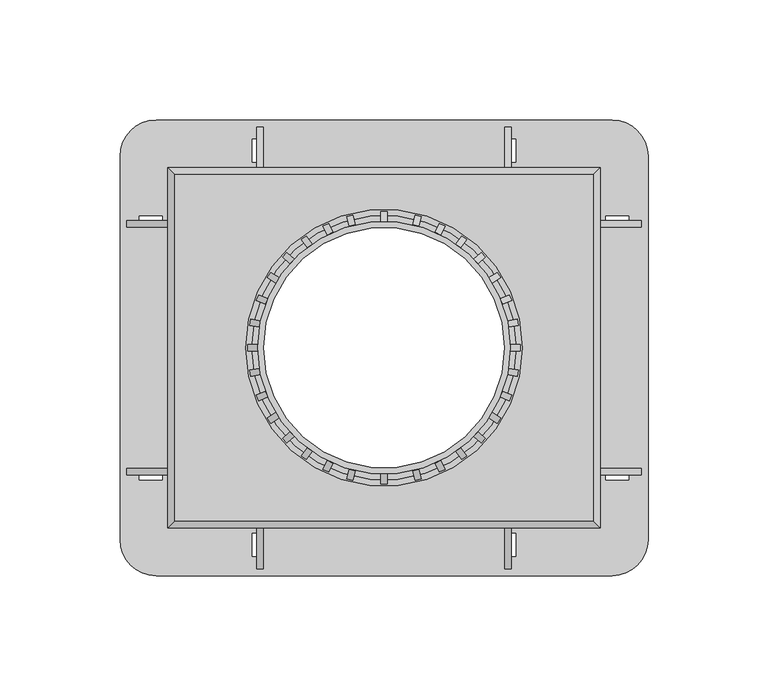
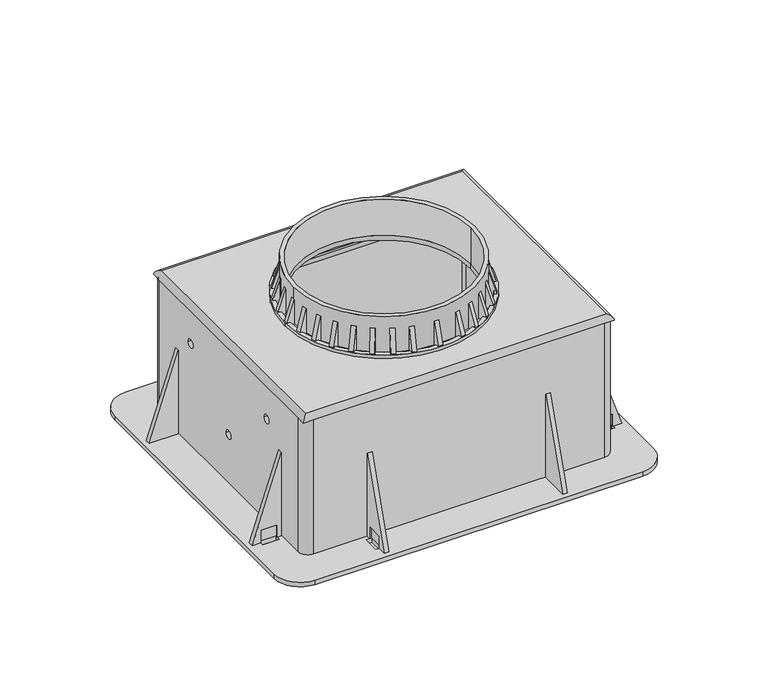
"""IFC4 building model written with IfcOpenShell, lengths in millimetres: proxy geometry, Cast In Collar Assembley : Cast In Collar Assembley."""

from ifc_helpers import new_model, si_unit, point, frame, frame_2d, origin, origin_with_axes, origin_2d, place, context, project, spatial, polyline, circle_curve, ellipse_curve, trimmed, segment, composite_curve, outline, extrude, faceted_brep, source, transform, mapped, element, save
from ifc_brep_helpers import plane_surface, cylinder_surface, revolved_surface, advanced_brep


def generic_models_a8caa1fc(model_context):
    return source(origin(), model_context, "Body", "SolidModel", [
        extrude(outline(polyline([(0.0, 0.0), (2.5, 0.0), (2.5, -3.0), (4.118, -3.0), (0.0, -16.0), (0.0, 0.0)])), frame((14.5015305, 50.6378849, 86.9867495), z_axis=(-0.9700844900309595, 0.24276754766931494, 0.0), x_axis=(0.24276754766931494, 0.9700844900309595, 0.0)), (0.0, 0.0, 1.0), 2.6),
        extrude(outline(polyline([(0.0, 0.0), (2.5, 0.0), (2.5, -3.0), (4.118, -3.0), (0.0, -16.0), (0.0, 0.0)])), frame((23.7011786, 47.0353899, 86.9867495), z_axis=(-0.907044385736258, 0.42103501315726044, 0.0), x_axis=(0.42103501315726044, 0.907044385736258, 0.0)), (0.0, 0.0, 1.0), 2.6),
        extrude(outline(polyline([(16.0, 0.0), (16.0, -2.5), (13.0, -2.5), (13.0, -4.118), (0.0, 0.0), (16.0, 0.0)])), frame((32.0453105, 41.7746193, 102.9867495), z_axis=(-0.8115744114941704, 0.5842490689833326, 0.0), x_axis=(0.0, 0.0, -1.0)), (0.0, 0.0, 1.0), 2.6),
        extrude(outline(polyline([(16.0, 0.0), (16.0, -2.4999999), (13.0, -2.4999999), (13.0, -4.118), (0.0, 0.0), (16.0, 0.0)])), frame((39.23416, 35.0124885, 102.9867495), z_axis=(-0.6870879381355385, 0.7265742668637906, 0.0), x_axis=(0.0, 0.0, -1.0)), (0.0, 0.0, 1.0), 2.6),
        extrude(outline(polyline([(0.0, 0.0), (2.5, 0.0), (2.5, -3.0), (4.118, -3.0), (0.0, -16.0), (0.0, 0.0)])), frame((45.119142, 27.0545676, 86.9867495), z_axis=(-0.5380357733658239, 0.8429220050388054, 0.0), x_axis=(0.8429220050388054, 0.5380357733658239, 0.0)), (0.0, 0.0, 1.0), 2.6),
        extrude(outline(polyline([(0.0, 0.0), (2.5, 0.0), (2.5, -3.0), (4.118, -3.0), (0.0, -16.0), (0.0, 0.0)])), frame((49.4219952, 18.1419172, 86.9867495), z_axis=(-0.36974703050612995, 0.9291324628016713, 0.0), x_axis=(0.9291324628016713, 0.36974703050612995, 0.0)), (0.0, 0.0, 1.0), 2.6),
        extrude(outline(polyline([(16.0, 0.0), (16.0, -2.5), (13.0, -2.5), (13.0, -4.118), (0.0, 0.0), (16.0, 0.0)])), frame((51.9475054, 8.572, 102.9867495), z_axis=(-0.1882385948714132, 0.9821233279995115, 0.0), x_axis=(0.0, 0.0, -1.0)), (0.0, 0.0, 1.0), 2.6),
        extrude(outline(polyline([(-16.0, 0.0), (0.0, 0.0), (-13.0, -4.118), (-13.0, -2.5), (-16.0, -2.5), (-16.0, 0.0)])), frame((-14.5015305, 50.6378849, 102.9867495), z_axis=(0.9700844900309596, 0.2427675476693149, 0.0), x_axis=(0.0, 0.0, 1.0)), (0.0, 0.0, 1.0), 2.6),
        extrude(outline(polyline([(-16.0, 0.0), (0.0, 0.0), (-13.0, -4.118), (-13.0, -2.5), (-16.0, -2.5), (-16.0, 0.0)])), frame((-23.7011786, 47.0353899, 102.9867495), z_axis=(0.907044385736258, 0.42103501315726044, 0.0), x_axis=(0.0, 0.0, 1.0)), (0.0, 0.0, 1.0), 2.6),
        extrude(outline(polyline([(0.0, 0.0), (0.0, -16.0), (-4.118, -3.0), (-2.5, -3.0), (-2.5, 0.0), (0.0, 0.0)])), frame((-32.0453105, 41.7746193, 86.9867495), z_axis=(0.8115744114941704, 0.5842490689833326, 0.0), x_axis=(0.5842490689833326, -0.8115744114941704, 0.0)), (0.0, 0.0, 1.0), 2.6),
        extrude(outline(polyline([(0.0, 0.0), (0.0, -16.0), (-4.118, -3.0), (-2.4999999, -3.0), (-2.4999999, 0.0), (0.0, 0.0)])), frame((-39.23416, 35.0124885, 86.9867495), z_axis=(0.6870879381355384, 0.7265742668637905, 0.0), x_axis=(0.7265742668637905, -0.6870879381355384, 0.0)), (0.0, 0.0, 1.0), 2.6),
        extrude(outline(polyline([(-16.0, 0.0), (0.0, 0.0), (-13.0, -4.1180001), (-13.0, -2.5000001), (-16.0, -2.5000001), (-16.0, 0.0)])), frame((-45.1191419, 27.0545676, 102.9867495), z_axis=(0.5380357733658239, 0.8429220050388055, 0.0), x_axis=(0.0, 0.0, 1.0)), (0.0, 0.0, 1.0), 2.6),
        extrude(outline(polyline([(-16.0, 0.0), (0.0, 0.0), (-13.0, -4.118), (-13.0, -2.5), (-16.0, -2.5), (-16.0, 0.0)])), frame((-49.4219952, 18.1419172, 102.9867495), z_axis=(0.36974703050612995, 0.9291324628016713, 0.0), x_axis=(0.0, 0.0, 1.0)), (0.0, 0.0, 1.0), 2.6),
        extrude(outline(polyline([(0.0, 0.0), (0.0, -16.0), (-4.118, -3.0), (-2.5, -3.0), (-2.5, 0.0), (0.0, 0.0)])), frame((-51.9475054, 8.572, 86.9867495), z_axis=(0.18823859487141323, 0.9821233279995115, 0.0), x_axis=(0.9821233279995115, -0.18823859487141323, 0.0)), (0.0, 0.0, 1.0), 2.6),
        extrude(outline(polyline([(16.0, 0.0), (16.0, -2.5), (13.0, -2.5), (13.0, -4.118), (0.0, 0.0), (16.0, 0.0)])), frame((11.9793108, -51.2690805, 102.9867495), z_axis=(0.9700844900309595, 0.2427675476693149, 0.0), x_axis=(0.0, 0.0, -1.0)), (0.0, 0.0, 1.0), 2.6),
        extrude(outline(polyline([(16.0, 0.0), (16.0, -2.5), (13.0, -2.5), (13.0, -4.118), (0.0, 0.0), (16.0, 0.0)])), frame((21.3428632, -48.1300809, 102.9867495), z_axis=(0.907044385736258, 0.42103501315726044, 0.0), x_axis=(0.0, 0.0, -1.0)), (0.0, 0.0, 1.0), 2.6),
        extrude(outline(polyline([(0.0, 0.0), (2.5, 0.0), (2.5, -3.0), (4.118, -3.0), (0.0, -16.0), (0.0, 0.0)])), frame((29.935217, -43.2936669, 86.9867495), z_axis=(0.8115744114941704, 0.5842490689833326, 0.0), x_axis=(0.5842490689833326, -0.8115744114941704, 0.0)), (0.0, 0.0, 1.0), 2.6),
        extrude(outline(polyline([(0.0, 0.0), (2.5000001, 0.0), (2.5000001, -3.0), (4.1180001, -3.0), (0.0, -16.0), (0.0, 0.0)])), frame((37.4477313, -36.9015815, 86.9867495), z_axis=(0.6870879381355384, 0.7265742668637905, 0.0), x_axis=(0.7265742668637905, -0.6870879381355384, 0.0)), (0.0, 0.0, 1.0), 2.6),
        extrude(outline(polyline([(16.0, 0.0), (16.0, -2.5000001), (13.0, -2.5000001), (13.0, -4.1180001), (0.0, 0.0), (16.0, 0.0)])), frame((43.7202489, -29.2461648, 102.9867495), z_axis=(0.5380357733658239, 0.8429220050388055, 0.0), x_axis=(0.0, 0.0, -1.0)), (0.0, 0.0, 1.0), 2.6),
        extrude(outline(polyline([(16.0, 0.0), (16.0, -2.5), (13.0, -2.5), (13.0, -4.118), (0.0, 0.0), (16.0, 0.0)])), frame((48.4606529, -20.5576616, 102.9867495), z_axis=(0.36974703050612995, 0.9291324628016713, 0.0), x_axis=(0.0, 0.0, -1.0)), (0.0, 0.0, 1.0), 2.6),
        extrude(outline(polyline([(0.0, 0.0), (2.5000001, 0.0), (2.5000001, -3.0), (4.118, -3.0), (0.0, -16.0), (0.0, 0.0)])), frame((51.458085, -11.1255207, 86.9867495), z_axis=(0.18823859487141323, 0.9821233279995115, 0.0), x_axis=(0.9821233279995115, -0.18823859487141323, 0.0)), (0.0, 0.0, 1.0), 2.6),
        extrude(outline(polyline([(0.0, 0.0), (0.0, -16.0), (-4.118, -3.0), (-2.5, -3.0), (-2.5, 0.0), (0.0, 0.0)])), frame((-11.9793108, -51.2690805, 86.9867495), z_axis=(-0.9700844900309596, 0.24276754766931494, 0.0), x_axis=(0.24276754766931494, 0.9700844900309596, 0.0)), (0.0, 0.0, 1.0), 2.6),
        extrude(outline(polyline([(0.0, 0.0), (0.0, -16.0), (-4.118, -3.0), (-2.5, -3.0), (-2.5, 0.0), (0.0, 0.0)])), frame((-21.3428632, -48.1300809, 86.9867495), z_axis=(-0.907044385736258, 0.42103501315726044, 0.0), x_axis=(0.42103501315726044, 0.907044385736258, 0.0)), (0.0, 0.0, 1.0), 2.6),
        extrude(outline(polyline([(-16.0, 0.0), (0.0, 0.0), (-13.0, -4.118), (-13.0, -2.5), (-16.0, -2.5), (-16.0, 0.0)])), frame((-29.935217, -43.2936669, 102.9867495), z_axis=(-0.8115744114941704, 0.5842490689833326, 0.0), x_axis=(0.0, 0.0, 1.0)), (0.0, 0.0, 1.0), 2.6),
        extrude(outline(polyline([(-16.0, 0.0), (0.0, 0.0), (-13.0, -4.1180001), (-13.0, -2.5000001), (-16.0, -2.5000001), (-16.0, 0.0)])), frame((-37.4477313, -36.9015815, 102.9867495), z_axis=(-0.6870879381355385, 0.7265742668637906, 0.0), x_axis=(0.0, 0.0, 1.0)), (0.0, 0.0, 1.0), 2.6),
        extrude(outline(polyline([(0.0, 0.0), (0.0, -16.0), (-4.1180001, -3.0), (-2.5000001, -3.0), (-2.5000001, 0.0), (0.0, 0.0)])), frame((-43.7202489, -29.2461648, 86.9867495), z_axis=(-0.5380357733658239, 0.8429220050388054, 0.0), x_axis=(0.8429220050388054, 0.5380357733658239, 0.0)), (0.0, 0.0, 1.0), 2.6),
        extrude(outline(polyline([(0.0, 0.0), (0.0, -16.0), (-4.118, -3.0), (-2.5, -3.0), (-2.5, 0.0), (0.0, 0.0)])), frame((-48.4606529, -20.5576616, 86.9867495), z_axis=(-0.36974703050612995, 0.9291324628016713, 0.0), x_axis=(0.9291324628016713, 0.36974703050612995, 0.0)), (0.0, 0.0, 1.0), 2.6),
        extrude(outline(polyline([(-16.0, 0.0), (0.0, 0.0), (-13.0, -4.118), (-13.0, -2.5000001), (-16.0, -2.5000001), (-16.0, 0.0)])), frame((-51.458085, -11.1255207, 102.9867495), z_axis=(-0.18823859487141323, 0.9821233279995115, 0.0), x_axis=(0.0, 0.0, 1.0)), (0.0, 0.0, 1.0), 2.6),
        extrude(outline(polyline([(-52.65, 86.9867495), (-55.15, 86.9867495), (-55.15, 89.9867495), (-56.768, 89.9867495), (-52.65, 102.9867495), (-52.65, 86.9867495)])), frame((-1.3, 0.0, 0.0), z_axis=(1.0, 0.0, 0.0), x_axis=(0.0, 1.0, 0.0)), (0.0, 0.0, 1.0), 2.6),
        extrude(outline(polyline([(52.65, 86.9867495), (52.65, 102.9867495), (56.768, 89.9867495), (55.15, 89.9867495), (55.15, 86.9867495), (52.65, 86.9867495)])), frame((-1.3, 0.0, 0.0), z_axis=(1.0, 0.0, 0.0), x_axis=(0.0, 1.0, 0.0)), (0.0, 0.0, 1.0), 2.6),
        extrude(outline(polyline([(86.9867495, -52.65), (102.9867495, -52.65), (89.9867495, -56.768), (89.9867495, -55.15), (86.9867495, -55.15), (86.9867495, -52.65)])), frame((0.0, -1.3, 0.0), z_axis=(0.0, 1.0, 0.0), x_axis=(0.0, 0.0, 1.0)), (0.0, 0.0, 1.0), 2.6),
        extrude(outline(polyline([(86.9867495, 52.65), (86.9867495, 55.15), (89.9867495, 55.15), (89.9867495, 56.768), (102.9867495, 52.65), (86.9867495, 52.65)])), frame((0.0, -1.3, 0.0), z_axis=(0.0, 1.0, 0.0), x_axis=(0.0, 0.0, 1.0)), (0.0, 0.0, 1.0), 2.6),
        extrude(outline(polyline([(-55.1060456, 78.8661059), (-68.955288, 65.0168635), (-68.955288, 11.0084273), (-60.795034, 6.2971024), (-61.295034, 5.431077), (-69.955288, 10.431077), (-69.955288, 65.431077), (-55.8131524, 79.5732127), (-55.1060456, 78.8661059)])), frame((-85.0, 0.0, 0.0), z_axis=(1.0, 0.0, 0.0), x_axis=(0.0, 1.0, 0.0)), (0.0, 0.0, 1.0), 170.0),
        extrude(outline(polyline([(55.1060456, 78.8661059), (55.8131524, 79.5732127), (69.955288, 65.431077), (69.955288, 10.431077), (61.295034, 5.431077), (60.795034, 6.2971024), (68.955288, 11.0084273), (68.955288, 65.0168635), (55.1060456, 78.8661059)])), frame((-85.0, 0.0, 0.0), z_axis=(1.0, 0.0, 0.0), x_axis=(0.0, 1.0, 0.0)), (0.0, 0.0, 1.0), 170.0),
        faceted_brep([(53.0, 75.1, 53.7), (53.0, 75.1, 2.7), (53.0, 77.349, 2.7), (53.0, 77.349, 10.2), (53.0, 87.049, 10.2), (53.0, 87.049, 2.7), (53.0, 92.1, 2.7), (50.3, 75.1, 53.7), (50.3, 92.1, 2.7), (50.3, 75.1, 2.7), (51.65, 87.049, 2.7), (51.65, 77.349, 2.7), (51.65, 87.049, 10.2), (51.65, 77.349, 10.2)], [[[0, 1, 2, 3, 4, 5, 6]], [[7, 8, 9]], [[1, 0, 7, 9]], [[9, 8, 6, 5, 10, 11, 2, 1]], [[0, 6, 8, 7]], [[12, 13, 11, 10]], [[12, 10, 5, 4]], [[11, 13, 3, 2]], [[13, 12, 4, 3]]]),
        faceted_brep([(-50.3, 75.1, 53.7), (-50.3, 75.1, 2.7), (-50.3, 92.1, 2.7), (-53.0, 75.1, 53.7), (-53.0, 92.1, 2.7), (-53.0, 87.049, 2.7), (-53.0, 87.049, 10.2), (-53.0, 77.349, 10.2), (-53.0, 77.349, 2.7), (-53.0, 75.1, 2.7), (-51.65, 77.349, 2.7), (-51.65, 87.049, 2.7), (-51.65, 77.349, 10.2), (-51.65, 87.049, 10.2)], [[[0, 1, 2]], [[3, 4, 5, 6, 7, 8, 9]], [[1, 0, 3, 9]], [[2, 1, 9, 8, 10, 11, 5, 4]], [[0, 2, 4, 3]], [[12, 13, 11, 10]], [[11, 13, 6, 5]], [[12, 10, 8, 7]], [[13, 12, 7, 6]]]),
        faceted_brep([(-50.3, -75.1, 53.7), (-50.3, -92.1, 2.7), (-50.3, -75.1, 2.7), (-53.0, -75.1, 53.7), (-53.0, -75.1, 2.7), (-53.0, -77.349, 2.7), (-53.0, -77.349, 10.2), (-53.0, -87.049, 10.2), (-53.0, -87.049, 2.7), (-53.0, -92.1, 2.7), (-51.65, -87.049, 2.7), (-51.65, -77.349, 2.7), (-51.65, -87.049, 10.2), (-51.65, -77.349, 10.2)], [[[0, 1, 2]], [[3, 4, 5, 6, 7, 8, 9]], [[0, 2, 4, 3]], [[2, 1, 9, 8, 10, 11, 5, 4]], [[1, 0, 3, 9]], [[12, 13, 11, 10]], [[12, 10, 8, 7]], [[11, 13, 6, 5]], [[13, 12, 7, 6]]]),
        faceted_brep([(53.0, -75.1, 53.7), (53.0, -92.1, 2.7), (53.0, -87.049, 2.7), (53.0, -87.049, 10.2), (53.0, -77.349, 10.2), (53.0, -77.349, 2.7), (53.0, -75.1, 2.7), (50.3, -75.1, 53.7), (50.3, -75.1, 2.7), (50.3, -92.1, 2.7), (51.65, -77.349, 2.7), (51.65, -87.049, 2.7), (51.65, -77.349, 10.2), (51.65, -87.049, 10.2)], [[[0, 1, 2, 3, 4, 5, 6]], [[7, 8, 9]], [[0, 6, 8, 7]], [[9, 8, 6, 5, 10, 11, 2, 1]], [[1, 0, 7, 9]], [[12, 13, 11, 10]], [[11, 13, 3, 2]], [[12, 10, 5, 4]], [[13, 12, 4, 3]]]),
        faceted_brep([(90.1, 50.3, 53.7), (90.1, 50.3, 2.7), (107.1, 50.3, 2.7), (90.1, 53.0, 53.7), (107.1, 53.0, 2.7), (102.049, 53.0, 2.7), (102.049, 53.0, 10.2), (92.349, 53.0, 10.2), (92.349, 53.0, 2.7), (90.1, 53.0, 2.7), (92.349, 51.7, 2.7), (102.049, 51.7, 2.7), (92.349, 51.7, 10.2), (102.049, 51.7, 10.2)], [[[0, 1, 2]], [[3, 4, 5, 6, 7, 8, 9]], [[1, 0, 3, 9]], [[2, 1, 9, 8, 10, 11, 5, 4]], [[0, 2, 4, 3]], [[12, 13, 11, 10]], [[11, 13, 6, 5]], [[12, 10, 8, 7]], [[13, 12, 7, 6]]]),
        faceted_brep([(90.1, -53.0, 53.7), (90.1, -53.0, 2.7), (92.349, -53.0, 2.7), (92.349, -53.0, 10.2), (102.049, -53.0, 10.2), (102.049, -53.0, 2.7), (107.1, -53.0, 2.7), (90.1, -50.3, 53.7), (107.1, -50.3, 2.7), (90.1, -50.3, 2.7), (102.049, -51.7, 2.7), (92.349, -51.7, 2.7), (102.049, -51.7, 10.2), (92.349, -51.7, 10.2)], [[[0, 1, 2, 3, 4, 5, 6]], [[7, 8, 9]], [[1, 0, 7, 9]], [[9, 8, 6, 5, 10, 11, 2, 1]], [[0, 6, 8, 7]], [[12, 13, 11, 10]], [[12, 10, 5, 4]], [[11, 13, 3, 2]], [[13, 12, 4, 3]]]),
        faceted_brep([(-90.1, -53.0, 53.7), (-107.1, -53.0, 2.7), (-102.049, -53.0, 2.7), (-102.049, -53.0, 10.2), (-92.349, -53.0, 10.2), (-92.349, -53.0, 2.7), (-90.1, -53.0, 2.7), (-90.1, -50.3, 53.7), (-90.1, -50.3, 2.7), (-107.1, -50.3, 2.7), (-92.349, -51.7, 2.7), (-102.049, -51.7, 2.7), (-92.349, -51.7, 10.2), (-102.049, -51.7, 10.2)], [[[0, 1, 2, 3, 4, 5, 6]], [[7, 8, 9]], [[0, 6, 8, 7]], [[9, 8, 6, 5, 10, 11, 2, 1]], [[1, 0, 7, 9]], [[12, 13, 11, 10]], [[11, 13, 3, 2]], [[12, 10, 5, 4]], [[13, 12, 4, 3]]]),
        faceted_brep([(-90.1, 50.3, 53.7), (-107.1, 50.3, 2.7), (-90.1, 50.3, 2.7), (-90.1, 53.0, 53.7), (-90.1, 53.0, 2.7), (-92.349, 53.0, 2.7), (-92.349, 53.0, 10.2), (-102.049, 53.0, 10.2), (-102.049, 53.0, 2.7), (-107.1, 53.0, 2.7), (-102.049, 51.7, 2.7), (-92.349, 51.7, 2.7), (-102.049, 51.7, 10.2), (-92.349, 51.7, 10.2)], [[[0, 1, 2]], [[3, 4, 5, 6, 7, 8, 9]], [[0, 2, 4, 3]], [[2, 1, 9, 8, 10, 11, 5, 4]], [[1, 0, 3, 9]], [[12, 13, 11, 10]], [[12, 10, 8, 7]], [[11, 13, 6, 5]], [[13, 12, 7, 6]]]),
        extrude(outline(composite_curve([segment(trimmed(circle_curve(frame_2d((95.0, 80.0)), 15.0), [point((95.0, 95.0))], [point((110.0, 80.0))], False, "CARTESIAN"), True, "CONTINUOUS"), segment(polyline([(110.0, 80.0), (110.0, -80.0)]), True, "CONTINUOUS"), segment(trimmed(circle_curve(frame_2d((95.0, -80.0)), 15.0), [point((110.0, -80.0))], [point((95.0, -95.0))], False, "CARTESIAN"), True, "CONTINUOUS"), segment(polyline([(95.0, -95.0), (-95.0, -95.0)]), True, "CONTINUOUS"), segment(trimmed(circle_curve(frame_2d((-95.0, -80.0)), 15.0), [point((-95.0, -95.0))], [point((-110.0, -80.0))], False, "CARTESIAN"), True, "CONTINUOUS"), segment(polyline([(-110.0, -80.0), (-110.0, 80.0)]), True, "CONTINUOUS"), segment(trimmed(circle_curve(frame_2d((-95.0, 80.0)), 15.0), [point((-110.0, 80.0))], [point((-95.0, 95.0))], False, "CARTESIAN"), True, "CONTINUOUS"), segment(polyline([(-95.0, 95.0), (95.0, 95.0)]), True, "CONTINUOUS")], self_intersect=False), holes=[composite_curve([segment(trimmed(circle_curve(frame_2d((-84.4, 69.4)), 3.0), [point((-84.4, 72.4))], [point((-87.4, 69.4))], True, "CARTESIAN"), True, "CONTINUOUS"), segment(polyline([(-87.4, 69.4), (-87.4, -69.4)]), True, "CONTINUOUS"), segment(trimmed(circle_curve(frame_2d((-84.4, -69.4)), 3.0), [point((-87.4, -69.4))], [point((-84.4, -72.4))], True, "CARTESIAN"), True, "CONTINUOUS"), segment(polyline([(-84.4, -72.4), (84.4, -72.4)]), True, "CONTINUOUS"), segment(trimmed(circle_curve(frame_2d((84.4, -69.4)), 3.0), [point((84.4, -72.4))], [point((87.4, -69.4))], True, "CARTESIAN"), True, "CONTINUOUS"), segment(polyline([(87.4, -69.4), (87.4, 69.4)]), True, "CONTINUOUS"), segment(trimmed(circle_curve(frame_2d((84.4, 69.4)), 3.0), [point((87.4, 69.4))], [point((84.4, 72.4))], True, "CARTESIAN"), True, "CONTINUOUS"), segment(polyline([(84.4, 72.4), (-84.4, 72.4)]), True, "CONTINUOUS")], self_intersect=False), polyline([(-102.049, 51.7), (-92.349, 51.7), (-92.349, 55.0), (-102.049, 55.0), (-102.049, 51.7)]), polyline([(-92.349, -51.7), (-102.049, -51.7), (-102.049, -55.0), (-92.349, -55.0), (-92.349, -51.7)]), polyline([(92.349, 51.7), (102.049, 51.7), (102.049, 55.0), (92.349, 55.0), (92.349, 51.7)]), polyline([(102.049, -51.7), (92.349, -51.7), (92.349, -55.0), (102.049, -55.0), (102.049, -51.7)]), polyline([(54.95, -87.049), (54.95, -77.349), (51.65, -77.349), (51.65, -87.049), (54.95, -87.049)]), polyline([(-54.95, -77.349), (-54.95, -87.049), (-51.65, -87.049), (-51.65, -77.349), (-54.95, -77.349)]), polyline([(54.95, 77.349), (54.95, 87.049), (51.65, 87.049), (51.65, 77.349), (54.95, 77.349)]), polyline([(-51.65, 87.049), (-54.95, 87.049), (-54.95, 77.349), (-51.65, 77.349), (-51.65, 87.049)])]), origin_with_axes(), (0.0, 0.0, 1.0), 2.7),
        extrude(outline(composite_curve([segment(trimmed(circle_curve(origin_2d(), 57.65), [point((57.65, 0.0))], [point((-57.65, 0.0))], False, "CARTESIAN"), True, "CONTINUOUS"), segment(trimmed(circle_curve(origin_2d(), 57.65), [point((-57.65, 0.0))], [point((57.65, 0.0))], False, "CARTESIAN"), True, "CONTINUOUS")], self_intersect=False), holes=[composite_curve([segment(trimmed(circle_curve(origin_2d(), 55.15), [point((55.15, 0.0))], [point((-55.15, 0.0))], True, "CARTESIAN"), True, "CONTINUOUS"), segment(trimmed(circle_curve(origin_2d(), 55.15), [point((-55.15, 0.0))], [point((55.15, 0.0))], True, "CARTESIAN"), True, "CONTINUOUS")], self_intersect=False)]), frame((0.0, 0.0, 86.9867495), z_axis=(0.0, 0.0, 1.0), x_axis=(1.0, 0.0, 0.0)), (0.0, 0.0, 1.0), 3.0),
        extrude(outline(composite_curve([segment(trimmed(circle_curve(origin_2d(), 52.65), [point((52.65, 0.0))], [point((-52.65, 0.0))], False, "CARTESIAN"), True, "CONTINUOUS"), segment(trimmed(circle_curve(origin_2d(), 52.65), [point((-52.65, 0.0))], [point((52.65, 0.0))], False, "CARTESIAN"), True, "CONTINUOUS")], self_intersect=False), holes=[composite_curve([segment(trimmed(circle_curve(origin_2d(), 50.15), [point((-50.15, 0.0))], [point((50.15, 0.0))], True, "CARTESIAN"), True, "CONTINUOUS"), segment(trimmed(circle_curve(origin_2d(), 50.15), [point((50.15, 0.0))], [point((-50.15, 0.0))], True, "CARTESIAN"), True, "CONTINUOUS")], self_intersect=False)]), frame((0.0, 0.0, 88.2), z_axis=(0.0, 0.0, 1.0), x_axis=(1.0, 0.0, 0.0)), (0.0, 0.0, 1.0), 22.0),
        advanced_brep(
        [(87.1, 72.1, 88.2), (-87.1, 72.1, 88.2), (-87.1, -72.1, 88.2), (87.1, -72.1, 88.2), (50.15, 0.0, 88.2), (-50.15, 0.0, 88.2), (-90.1, 75.1, 85.2), (-90.1, 69.4, 85.2), (-90.1, -69.4, 85.2), (-90.1, -75.1, 85.2), (-84.4, 75.1, 85.2), (-84.4, -75.1, 85.2), (84.4, 75.1, 85.2), (90.1, 75.1, 85.2), (90.1, 69.4, 85.2), (90.1, -69.4, 85.2), (90.1, -75.1, 85.2), (84.4, -75.1, 85.2), (84.4, 72.4, 85.2), (87.4, 69.4, 85.2), (87.4, -69.4, 85.2), (84.4, -72.4, 85.2), (-84.4, -72.4, 85.2), (-87.4, -69.4, 85.2), (-87.4, 69.4, 85.2), (-84.4, 72.4, 85.2), (-50.15, 0.0, 85.2), (50.15, 0.0, 85.2), (-90.1, 69.4, 2.7), (-84.4, 75.1, 2.7), (84.4, 75.1, 2.7), (90.1, 69.4, 2.7), (90.1, -69.4, 2.7), (84.4, -75.1, 2.7), (-84.4, -75.1, 2.7), (-90.1, -69.4, 2.7), (84.4, 72.4, 2.7), (-84.4, 72.4, 2.7), (-87.4, 69.4, 2.7), (-87.4, -69.4, 2.7), (-84.4, -72.4, 2.7), (84.4, -72.4, 2.7), (87.4, -69.4, 2.7), (87.4, 69.4, 2.7), (87.4, -40.6133713, 65.2), (87.4, -35.6133713, 65.2), (87.4, 40.6133713, 65.2), (87.4, 35.6133713, 65.2), (87.4, 2.5, 32.55), (87.4, -2.5, 32.55), (-87.4, -35.6133713, 65.2), (-87.4, -40.6133713, 65.2), (-87.4, 35.6133713, 65.2), (-87.4, 40.6133713, 65.2), (-87.4, -2.5, 32.55), (-87.4, 2.5, 32.55), (-90.1, -40.6133713, 65.2), (-90.1, -35.6133713, 65.2), (-90.1, 40.6133713, 65.2), (-90.1, 35.6133713, 65.2), (-90.1, 2.5, 32.55), (-90.1, -2.5, 32.55), (90.1, -35.6133713, 65.2), (90.1, -40.6133713, 65.2), (90.1, 35.6133713, 65.2), (90.1, 40.6133713, 65.2), (90.1, -2.5, 32.55), (90.1, 2.5, 32.55)],
        [
            (0, 1),
            (1, 2),
            (2, 3),
            (3, 0),
            (4, 5, circle_curve(frame((0.0, 0.0, 88.2), z_axis=(0.0, 0.0, -1.0), x_axis=(1.0, 0.0, 0.0)), 50.15)),
            (5, 4, circle_curve(frame((0.0, 0.0, 88.2), z_axis=(0.0, 0.0, -1.0), x_axis=(1.0, 0.0, 0.0)), 50.15)),
            (1, 6, ellipse_curve(frame((-87.1, 72.1, 85.2), z_axis=(-0.7071067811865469, -0.7071067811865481, 0.0), x_axis=(-0.7071067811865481, 0.7071067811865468, 0.0)), 4.2426407, 3.0)),
            (6, 7),
            (7, 8),
            (8, 9),
            (9, 2, ellipse_curve(frame((-87.1, -72.1, 85.2), z_axis=(-0.707106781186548, 0.7071067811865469, 0.0), x_axis=(0.7071067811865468, 0.7071067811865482, 0.0)), 4.2426407, 3.0)),
            (6, 10),
            (10, 7, circle_curve(frame((-84.4, 69.4, 85.2), z_axis=(0.0, 0.0, 1.0), x_axis=(1.0, 0.0, 0.0)), 5.7)),
            (8, 11, circle_curve(frame((-84.4, -69.4, 85.2), z_axis=(0.0, 0.0, 1.0), x_axis=(1.0, 0.0, 0.0)), 5.7)),
            (11, 9),
            (12, 13),
            (13, 14),
            (14, 12, circle_curve(frame((84.4, 69.4, 85.2), z_axis=(0.0, 0.0, 1.0), x_axis=(1.0, 0.0, 0.0)), 5.7)),
            (15, 16),
            (16, 17),
            (17, 15, circle_curve(frame((84.4, -69.4, 85.2), z_axis=(0.0, 0.0, 1.0), x_axis=(1.0, 0.0, 0.0)), 5.7)),
            (18, 19, circle_curve(frame((84.4, 69.4, 85.2), z_axis=(0.0, 0.0, -1.0), x_axis=(1.0, 0.0, 0.0)), 3.0)),
            (19, 20),
            (20, 21, circle_curve(frame((84.4, -69.4, 85.2), z_axis=(0.0, 0.0, -1.0), x_axis=(1.0, 0.0, 0.0)), 3.0)),
            (21, 22),
            (22, 23, circle_curve(frame((-84.4, -69.4, 85.2), z_axis=(0.0, 0.0, -1.0), x_axis=(1.0, 0.0, 0.0)), 3.0)),
            (23, 24),
            (24, 25, circle_curve(frame((-84.4, 69.4, 85.2), z_axis=(0.0, 0.0, -1.0), x_axis=(1.0, 0.0, 0.0)), 3.0)),
            (25, 18),
            (26, 27, circle_curve(frame((0.0, 0.0, 85.2), z_axis=(0.0, 0.0, 1.0), x_axis=(1.0, 0.0, 0.0)), 50.15)),
            (27, 26, circle_curve(frame((0.0, 0.0, 85.2), z_axis=(0.0, 0.0, 1.0), x_axis=(1.0, 0.0, 0.0)), 50.15)),
            (13, 0, ellipse_curve(frame((87.1, 72.1, 85.2), z_axis=(0.7071067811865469, -0.7071067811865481, 0.0), x_axis=(0.7071067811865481, 0.7071067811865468, 0.0)), 4.2426407, 3.0)),
            (3, 16, ellipse_curve(frame((87.1, -72.1, 85.2), z_axis=(0.707106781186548, 0.7071067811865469, 0.0), x_axis=(-0.7071067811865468, 0.7071067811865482, 0.0)), 4.2426407, 3.0)),
            (15, 14),
            (12, 10),
            (11, 17),
            (28, 29, circle_curve(frame((-84.4, 69.4, 2.7), z_axis=(0.0, 0.0, -1.0), x_axis=(1.0, 0.0, 0.0)), 5.7)),
            (29, 30),
            (30, 31, circle_curve(frame((84.4, 69.4, 2.7), z_axis=(0.0, 0.0, -1.0), x_axis=(1.0, 0.0, 0.0)), 5.7)),
            (31, 32),
            (32, 33, circle_curve(frame((84.4, -69.4, 2.7), z_axis=(0.0, 0.0, -1.0), x_axis=(1.0, 0.0, 0.0)), 5.7)),
            (33, 34),
            (34, 35, circle_curve(frame((-84.4, -69.4, 2.7), z_axis=(0.0, 0.0, -1.0), x_axis=(1.0, 0.0, 0.0)), 5.7)),
            (35, 28),
            (36, 37),
            (37, 38, circle_curve(frame((-84.4, 69.4, 2.7), z_axis=(0.0, 0.0, 1.0), x_axis=(1.0, 0.0, 0.0)), 3.0)),
            (38, 39),
            (39, 40, circle_curve(frame((-84.4, -69.4, 2.7), z_axis=(0.0, 0.0, 1.0), x_axis=(1.0, 0.0, 0.0)), 3.0)),
            (40, 41),
            (41, 42, circle_curve(frame((84.4, -69.4, 2.7), z_axis=(0.0, 0.0, 1.0), x_axis=(1.0, 0.0, 0.0)), 3.0)),
            (42, 43),
            (43, 36, circle_curve(frame((84.4, 69.4, 2.7), z_axis=(0.0, 0.0, 1.0), x_axis=(1.0, 0.0, 0.0)), 3.0)),
            (43, 19),
            (18, 36),
            (42, 20),
            (44, 45, circle_curve(frame((87.4, -38.1133713, 65.2), z_axis=(1.0, 0.0, 0.0), x_axis=(0.0, 1.0, 0.0)), 2.5)),
            (45, 44, circle_curve(frame((87.4, -38.1133713, 65.2), z_axis=(1.0, 0.0, 0.0), x_axis=(0.0, 1.0, 0.0)), 2.5)),
            (46, 47, circle_curve(frame((87.4, 38.1133713, 65.2), z_axis=(1.0, 0.0, 0.0), x_axis=(0.0, -1.0, 0.0)), 2.5)),
            (47, 46, circle_curve(frame((87.4, 38.1133713, 65.2), z_axis=(1.0, 0.0, 0.0), x_axis=(0.0, -1.0, 0.0)), 2.5)),
            (48, 49, circle_curve(frame((87.4, 0.0, 32.55), z_axis=(1.0, 0.0, 0.0), x_axis=(0.0, -1.0, 0.0)), 2.5)),
            (49, 48, circle_curve(frame((87.4, 0.0, 32.55), z_axis=(1.0, 0.0, 0.0), x_axis=(0.0, -1.0, 0.0)), 2.5)),
            (41, 21),
            (40, 22),
            (39, 23),
            (38, 24),
            (50, 51, circle_curve(frame((-87.4, -38.1133713, 65.2), z_axis=(-1.0, 0.0, 0.0), x_axis=(0.0, 1.0, 0.0)), 2.5)),
            (51, 50, circle_curve(frame((-87.4, -38.1133713, 65.2), z_axis=(-1.0, 0.0, 0.0), x_axis=(0.0, 1.0, 0.0)), 2.5)),
            (52, 53, circle_curve(frame((-87.4, 38.1133713, 65.2), z_axis=(-1.0, 0.0, 0.0), x_axis=(0.0, -1.0, 0.0)), 2.5)),
            (53, 52, circle_curve(frame((-87.4, 38.1133713, 65.2), z_axis=(-1.0, 0.0, 0.0), x_axis=(0.0, -1.0, 0.0)), 2.5)),
            (54, 55, circle_curve(frame((-87.4, 0.0, 32.55), z_axis=(-1.0, 0.0, 0.0), x_axis=(0.0, -1.0, 0.0)), 2.5)),
            (55, 54, circle_curve(frame((-87.4, 0.0, 32.55), z_axis=(-1.0, 0.0, 0.0), x_axis=(0.0, -1.0, 0.0)), 2.5)),
            (37, 25),
            (35, 8),
            (7, 28),
            (56, 57, circle_curve(frame((-90.1, -38.1133713, 65.2), z_axis=(1.0, 0.0, 0.0), x_axis=(0.0, 1.0, 0.0)), 2.5)),
            (57, 56, circle_curve(frame((-90.1, -38.1133713, 65.2), z_axis=(1.0, 0.0, 0.0), x_axis=(0.0, 1.0, 0.0)), 2.5)),
            (58, 59, circle_curve(frame((-90.1, 38.1133713, 65.2), z_axis=(1.0, 0.0, 0.0), x_axis=(0.0, -1.0, 0.0)), 2.5)),
            (59, 58, circle_curve(frame((-90.1, 38.1133713, 65.2), z_axis=(1.0, 0.0, 0.0), x_axis=(0.0, -1.0, 0.0)), 2.5)),
            (60, 61, circle_curve(frame((-90.1, 0.0, 32.55), z_axis=(1.0, 0.0, 0.0), x_axis=(0.0, -1.0, 0.0)), 2.5)),
            (61, 60, circle_curve(frame((-90.1, 0.0, 32.55), z_axis=(1.0, 0.0, 0.0), x_axis=(0.0, -1.0, 0.0)), 2.5)),
            (34, 11),
            (33, 17),
            (32, 15),
            (31, 14),
            (62, 63, circle_curve(frame((90.1, -38.1133713, 65.2), z_axis=(-1.0, 0.0, 0.0), x_axis=(0.0, 1.0, 0.0)), 2.5)),
            (63, 62, circle_curve(frame((90.1, -38.1133713, 65.2), z_axis=(-1.0, 0.0, 0.0), x_axis=(0.0, 1.0, 0.0)), 2.5)),
            (64, 65, circle_curve(frame((90.1, 38.1133713, 65.2), z_axis=(-1.0, 0.0, 0.0), x_axis=(0.0, -1.0, 0.0)), 2.5)),
            (65, 64, circle_curve(frame((90.1, 38.1133713, 65.2), z_axis=(-1.0, 0.0, 0.0), x_axis=(0.0, -1.0, 0.0)), 2.5)),
            (66, 67, circle_curve(frame((90.1, 0.0, 32.55), z_axis=(-1.0, 0.0, 0.0), x_axis=(0.0, -1.0, 0.0)), 2.5)),
            (67, 66, circle_curve(frame((90.1, 0.0, 32.55), z_axis=(-1.0, 0.0, 0.0), x_axis=(0.0, -1.0, 0.0)), 2.5)),
            (30, 12),
            (29, 10),
            (44, 63),
            (62, 45),
            (46, 65),
            (64, 47),
            (48, 67),
            (66, 49),
            (50, 57),
            (56, 51),
            (52, 59),
            (58, 53),
            (54, 61),
            (60, 55),
            (26, 5),
            (4, 27),
        ],
        [
            plane_surface(frame((-87.1, 75.1, 88.2), z_axis=(0.0, 0.0, 1.0), x_axis=(0.0, -1.0, 0.0))),
            cylinder_surface(frame((-87.1, 75.1, 85.2), z_axis=(0.0, 1.0, 0.0), x_axis=(-1.0, 0.0, 0.0)), 3.0),
            plane_surface(frame((0.0, 75.1, 85.2), z_axis=(0.0, 0.0, -1.0), x_axis=(0.0, -1.0, 0.0))),
            cylinder_surface(frame((87.1, 75.1, 85.2), z_axis=(0.0, 1.0, 0.0), x_axis=(1.0, 0.0, 0.0)), 3.0),
            cylinder_surface(frame((-90.1, 72.1, 85.2), z_axis=(-1.0, 0.0, 0.0), x_axis=(0.0, 1.0, 0.0)), 3.0),
            cylinder_surface(frame((-90.1, -72.1, 85.2), z_axis=(-1.0, 0.0, 0.0), x_axis=(0.0, -1.0, 0.0)), 3.0),
            plane_surface(frame((87.4, 69.4, 2.7), z_axis=(0.0, 0.0, -1.0), x_axis=(0.0, 1.0, 0.0))),
            revolved_surface(polyline([(87.4, 69.4, 2.7), (87.4, 69.4, 85.2)]), (84.4, 69.4, 2.7), (0.0, 0.0, -1.0)),
            plane_surface(frame((87.4, 69.4, 85.2), z_axis=(-1.0, 0.0, 0.0), x_axis=(0.0, 0.0, -1.0))),
            revolved_surface(polyline([(87.4, -69.4, 2.7), (87.4, -69.4, 85.2)]), (84.4, -69.4, 2.7), (0.0, 0.0, -1.0)),
            plane_surface(frame((84.4, -72.4, 85.2), z_axis=(0.0, 1.0, 0.0), x_axis=(0.0, 0.0, -1.0))),
            revolved_surface(polyline([(-81.4, -69.4, 2.7), (-81.4, -69.4, 85.2)]), (-84.4, -69.4, 2.7), (0.0, 0.0, -1.0)),
            plane_surface(frame((-87.4, -69.4, 85.2), z_axis=(1.0, 0.0, 0.0), x_axis=(0.0, 0.0, -1.0))),
            revolved_surface(polyline([(-81.4, 69.4, 2.7), (-81.4, 69.4, 85.2)]), (-84.4, 69.4, 2.7), (0.0, 0.0, -1.0)),
            plane_surface(frame((-84.4, 72.4, 85.2), z_axis=(0.0, -1.0, 0.0), x_axis=(0.0, 0.0, -1.0))),
            plane_surface(frame((-90.1, 69.4, 85.2), z_axis=(-1.0, 0.0, 0.0), x_axis=(0.0, 0.0, -1.0))),
            cylinder_surface(frame((-84.4, -69.4, 2.7), z_axis=(0.0, 0.0, 1.0), x_axis=(1.0, 0.0, 0.0)), 5.7),
            plane_surface(frame((-84.4, -75.1, 85.2), z_axis=(0.0, -1.0, 0.0), x_axis=(0.0, 0.0, -1.0))),
            cylinder_surface(frame((84.4, -69.4, 2.7), z_axis=(0.0, 0.0, 1.0), x_axis=(1.0, 0.0, 0.0)), 5.7),
            plane_surface(frame((90.1, -69.4, 85.2), z_axis=(1.0, 0.0, 0.0), x_axis=(0.0, 0.0, -1.0))),
            cylinder_surface(frame((84.4, 69.4, 2.7), z_axis=(0.0, 0.0, 1.0), x_axis=(1.0, 0.0, 0.0)), 5.7),
            plane_surface(frame((84.4, 75.1, 85.2), z_axis=(0.0, 1.0, 0.0), x_axis=(0.0, 0.0, -1.0))),
            cylinder_surface(frame((-84.4, 69.4, 2.7), z_axis=(0.0, 0.0, 1.0), x_axis=(1.0, 0.0, 0.0)), 5.7),
            revolved_surface(polyline([(90.1, -35.6133713, 65.2), (87.4, -35.6133713, 65.2)]), (79.219974, -38.1133713, 65.2), (1.0, 0.0, 0.0)),
            revolved_surface(polyline([(90.1, 35.6133713, 65.2), (87.4, 35.6133713, 65.2)]), (0.0, 38.1133713, 65.2), (1.0, 0.0, 0.0)),
            revolved_surface(polyline([(90.1, -2.5, 32.55), (87.4, -2.5, 32.55)]), (0.0, 0.0, 32.55), (1.0, 0.0, 0.0)),
            revolved_surface(polyline([(-90.1, -35.6133713, 65.2), (-87.4, -35.6133713, 65.2)]), (-79.219974, -38.1133713, 65.2), (-1.0, 0.0, 0.0)),
            revolved_surface(polyline([(-90.1, 35.6133713, 65.2), (-87.4, 35.6133713, 65.2)]), (0.0, 38.1133713, 65.2), (-1.0, 0.0, 0.0)),
            revolved_surface(polyline([(-90.1, -2.5, 32.55), (-87.4, -2.5, 32.55)]), (0.0, 0.0, 32.55), (-1.0, 0.0, 0.0)),
            revolved_surface(polyline([(50.15, 0.0, 88.2), (50.15, 0.0, 85.2)]), (0.0, 0.0, 80.0), (0.0, 0.0, 1.0)),
        ],
        [
            (0, [[1, 2, 3, 4], [5, 6]]),
            (1, [[7, 8, 9, 10, 11, -2]]),
            (2, [[-8, 12, 13]]),
            (2, [[-10, 14, 15]]),
            (2, [[16, 17, 18]]),
            (2, [[19, 20, 21]]),
            (2, [[22, 23, 24, 25, 26, 27, 28, 29], [30, 31]]),
            (3, [[32, -4, 33, -19, 34, -17]]),
            (4, [[-1, -32, -16, 35, -12, -7]]),
            (5, [[-3, -11, -15, 36, -20, -33]]),
            (6, [[37, 38, 39, 40, 41, 42, 43, 44], [45, 46, 47, 48, 49, 50, 51, 52]]),
            (7, [[-52, 53, -22, 54]]),
            (8, [[-51, 55, -23, -53], [56, 57], [58, 59], [60, 61]]),
            (9, [[-50, 62, -24, -55]]),
            (10, [[-49, 63, -25, -62]]),
            (11, [[-48, 64, -26, -63]]),
            (12, [[-47, 65, -27, -64], [66, 67], [68, 69], [70, 71]]),
            (13, [[-46, 72, -28, -65]]),
            (14, [[-45, -54, -29, -72]]),
            (15, [[-44, 73, -9, 74], [75, 76], [77, 78], [79, 80]]),
            (16, [[-43, 81, -14, -73]]),
            (17, [[-42, 82, -36, -81]]),
            (18, [[-41, 83, -21, -82]]),
            (19, [[-40, 84, -34, -83], [85, 86], [87, 88], [89, 90]]),
            (20, [[-39, 91, -18, -84]]),
            (21, [[-38, 92, -35, -91]]),
            (22, [[-37, -74, -13, -92]]),
            (23, [[93, -85, 94, -56]]),
            (23, [[-93, -57, -94, -86]]),
            (24, [[95, -87, 96, -58]]),
            (24, [[-95, -59, -96, -88]]),
            (25, [[97, -89, 98, -60]]),
            (25, [[-97, -61, -98, -90]]),
            (26, [[99, -75, 100, -66]]),
            (26, [[-99, -67, -100, -76]]),
            (27, [[101, -77, 102, -68]]),
            (27, [[-101, -69, -102, -78]]),
            (28, [[103, -79, 104, -70]]),
            (28, [[-103, -71, -104, -80]]),
            (29, [[105, -5, 106, -30]]),
            (29, [[-105, -31, -106, -6]]),
        ],
    ),
    ])


if __name__ == "__main__":
    model = new_model("IFC4")
    model_context = context("Model", 3, world=origin())
    ifc_project = project(units=[si_unit("LENGTHUNIT", "METRE", prefix="MILLI")], contexts=[model_context])
    site = spatial("IfcSite", under=ifc_project)
    building = spatial("IfcBuilding", under=site)
    placement = place(None, origin())
    generic_models_shape = generic_models_a8caa1fc(model_context)
    element("IfcBuildingElementProxy", 1, Name="Cast In Collar Assembley : Cast In Collar Assembley", ObjectType="Cast In Collar Assembley : Cast In Collar Assembley", at=placement, inside=building, context=model_context, shape_type="MappedRepresentation", body=[
        mapped(generic_models_shape, transform((0.0, 0.0, 0.0), x_axis=(1.0, 0.0, 0.0), y_axis=(0.0, 1.0, 0.0), z_axis=(0.0, 0.0, 1.0))),
    ])
    save(model, "model.ifc")
